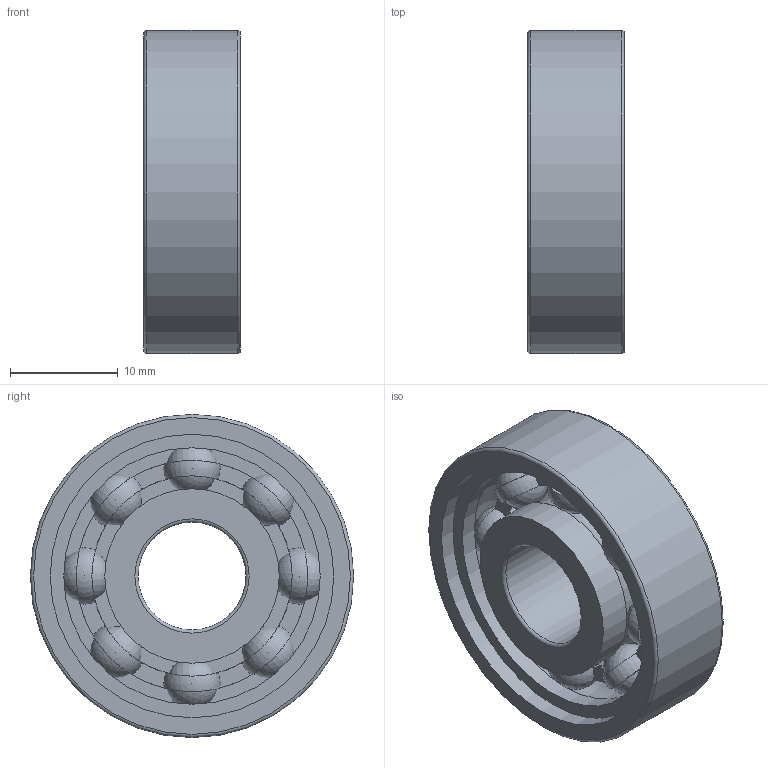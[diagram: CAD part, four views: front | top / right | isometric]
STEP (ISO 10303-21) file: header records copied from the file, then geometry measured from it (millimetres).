
FILE_DESCRIPTION(/* description */ (''),/* implementation_level */ '2;1');
FILE_NAME(/* name */ 'D:\moje\parametrické\62--\rada62---RSR\62---RSR\6200RSR.stp',/* time_stamp */ '2016-04-04T12:43:19+02:00',/* author */ ('OUBALASKO'),/* organization */ (''),/* preprocessor_version */ 'ST-DEVELOPER v15.2',/* originating_system */ 'Autodesk Inventor 2014',/* authorisation */ '');
FILE_SCHEMA (('AUTOMOTIVE_DESIGN { 1 0 10303 214 3 1 1 }'));
Length unit declared in the file: millimetre
Products named in the file (6): 6200-02-RSR; 6200-ball; 6200-cage; 6200-01-RSR; 6200-seal-2RSR,ZR; 6200RSR
Bounding box: 9 x 30 x 30 mm (x, y, z)
Volume: 4100.3 mm3; surface area: 5067.5 mm2
Topology: 13 solids, 13 shells, 100 faces, 360 edges, 236 vertices
Faces by surface type: plane 40, sphere 40, cylinder 14, torus 6
Full cylindrical faces by diameter (mm): 10 x1, 16.19 x3, 18.571 x2, 21.429 x2, 23.81 x2, 26.31 x3, 30 x1
Entity records: 2456 total; most frequent: CARTESIAN_POINT 961, DIRECTION 334, ORIENTED_EDGE 242, AXIS2_PLACEMENT_3D 167, EDGE_CURVE 121, VERTEX_POINT 90, CIRCLE 89, EDGE_LOOP 85
